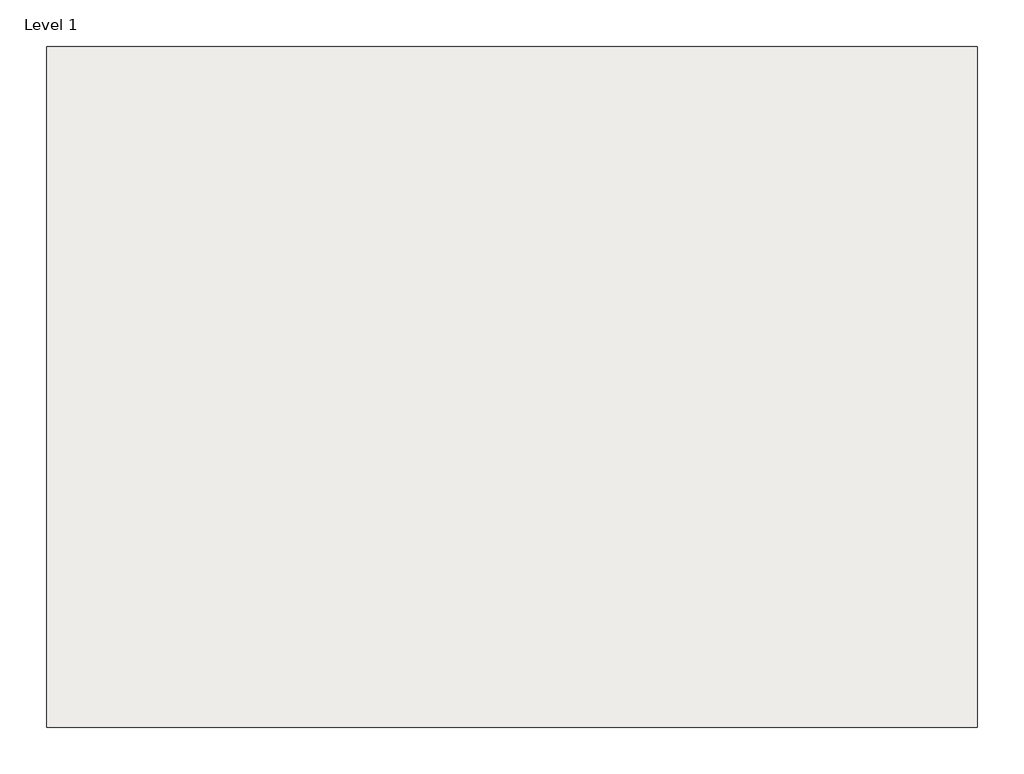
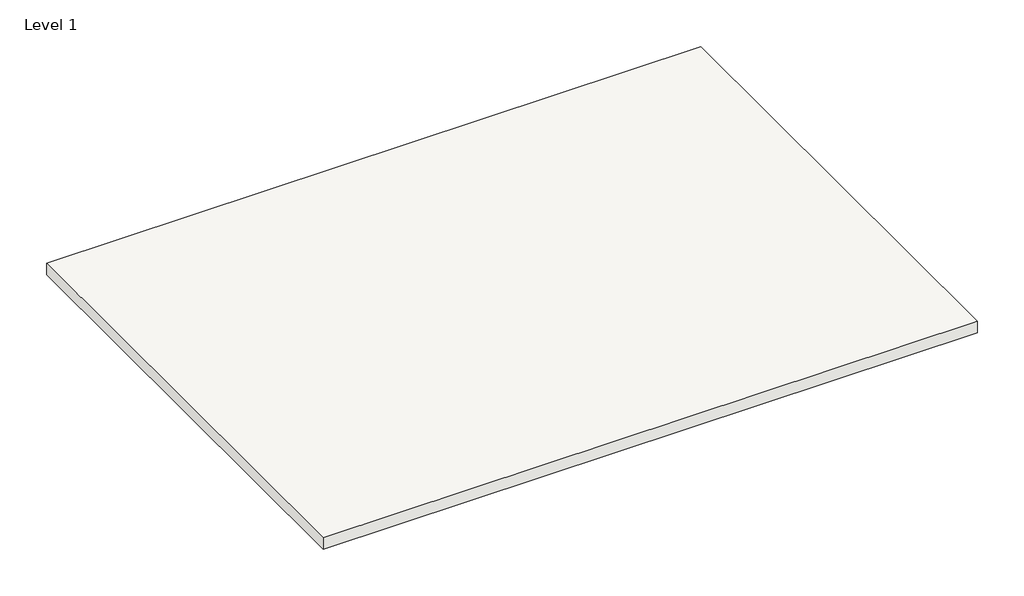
# One storey, incomplete: 1 slab.
"""IFC4 building model written with IfcOpenShell, lengths in millimetres."""

from ifc_helpers import new_model, si_unit, frame, origin, place, context, project, spatial, polyline, outline, extrude, element, save

model = new_model("IFC4")

# Units and contexts
model_context = context("Model", 3, world=origin())
ifc_project = project(units=[si_unit("LENGTHUNIT", "METRE", prefix="MILLI")], contexts=[model_context])

# Site, building, storey
site = spatial("IfcSite", under=ifc_project)
building = spatial("IfcBuilding", under=site)
storey = spatial("IfcBuildingStorey", under=building, Name="Level 1", Elevation=0.0)

# Slab
placement = place(None, origin())
element("IfcSlab", 1, ObjectType="Generic 150mm", at=placement, inside=storey, context=model_context, shape_type="SweptSolid", body=[
    extrude(outline(polyline([(-541.9884142, -2328.6765724), (-541.9884142, -8328.6765724), (-8741.9884142, -8328.6765724), (-8741.9884142, -2328.6765724), (-541.9884142, -2328.6765724)])), frame((0.0, 0.0, -150.0), z_axis=(0.0, 0.0, 1.0), x_axis=(1.0, 0.0, 0.0)), (0.0, 0.0, 1.0), 150.0),
])

save(model, "model.ifc")
